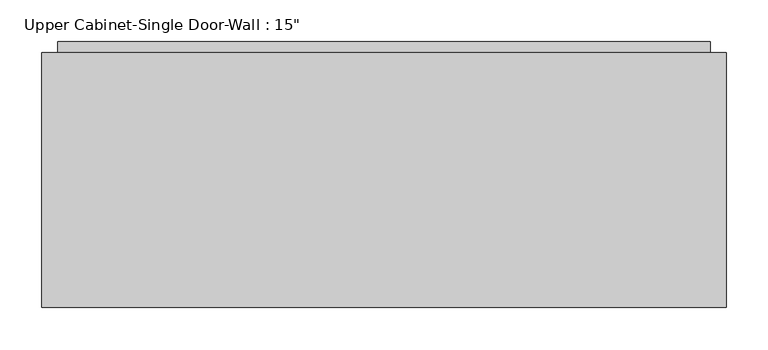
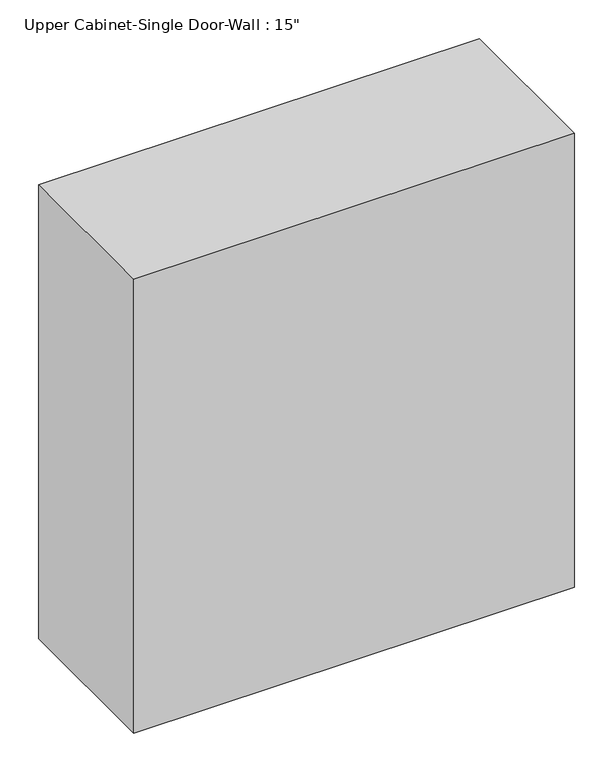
"""IFC4 building model written with IfcOpenShell, lengths in millimetres: furniture geometry."""

from ifc_helpers import new_model, si_unit, frame, origin, place, context, project, spatial, polyline, outline, extrude, faceted_brep, source, transform, mapped, element, save


def furniture_00f4c585(model_context):
    return source(origin(), model_context, "Body", "SolidModel", [
        faceted_brep([(-557.9991783, 57.15, 2133.6), (-557.9991783, 57.15, 1244.6), (258.3711628, 57.15, 1244.6), (258.3711628, 57.15, 2133.6), (-557.9991783, 361.95, 2133.6), (258.3711628, 361.95, 2133.6), (258.3711628, 361.95, 1244.6), (-557.9991783, 361.95, 1244.6), (-538.9491783, 361.95, 2114.55), (-538.9491783, 361.95, 1263.65), (239.3211628, 361.95, 1263.65), (239.3211628, 361.95, 2114.55), (239.3211628, 76.2, 2114.55), (-538.9491783, 76.2, 2114.55), (239.3211628, 76.2, 1263.65), (-538.9491783, 76.2, 1263.65)], [[[0, 1, 2, 3]], [[4, 5, 6, 7], [8, 9, 10, 11]], [[1, 0, 4, 7]], [[2, 1, 7, 6]], [[3, 2, 6, 5]], [[0, 3, 5, 4]], [[8, 11, 12, 13]], [[11, 10, 14, 12]], [[10, 9, 15, 14]], [[9, 8, 13, 15]], [[13, 12, 14, 15]]]),
        extrude(outline(polyline([(-538.9491783, 374.65), (239.3211628, 374.65), (239.3211628, 342.9), (-538.9491783, 342.9), (-538.9491783, 374.65)])), frame((0.0, 0.0, 1263.65), z_axis=(0.0, 0.0, 1.0), x_axis=(1.0, 0.0, 0.0)), (0.0, 0.0, 1.0), 850.9),
    ])


if __name__ == "__main__":
    model = new_model("IFC4")
    model_context = context("Model", 3, world=origin())
    ifc_project = project(units=[si_unit("LENGTHUNIT", "METRE", prefix="MILLI")], contexts=[model_context])
    site = spatial("IfcSite", under=ifc_project)
    building = spatial("IfcBuilding", under=site)
    placement = place(None, origin())
    furniture_shape = furniture_00f4c585(model_context)
    element("IfcFurniture", 1, ObjectType="Upper Cabinet-Single Door-Wall : 15\"", at=placement, inside=building, context=model_context, shape_type="MappedRepresentation", body=[
        mapped(furniture_shape, transform((0.0, 0.0, 0.0), x_axis=(1.0, 0.0, 0.0), y_axis=(0.0, 1.0, 0.0), z_axis=(0.0, 0.0, 1.0))),
    ])
    save(model, "model.ifc")
